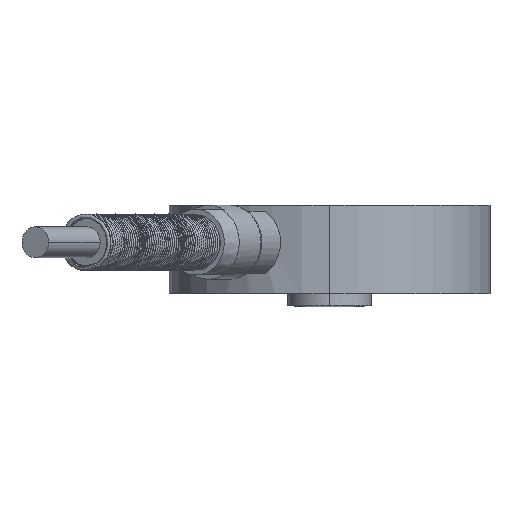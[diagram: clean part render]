
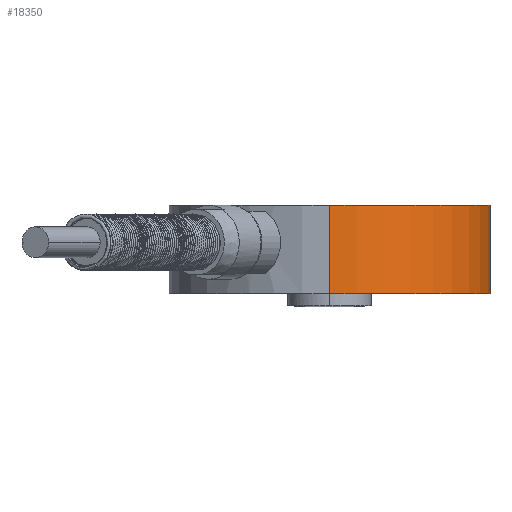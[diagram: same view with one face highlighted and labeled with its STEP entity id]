
A CAD part, left-side view. The second image highlights one B-rep face of the part: STEP entity #18350.
In plain terms, the highlighted cylindrical face has radius 15.6 mm (diameter 31.2 mm), a partial arc.
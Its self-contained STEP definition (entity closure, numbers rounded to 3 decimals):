
#1206 = EDGE_CURVE ( 'NONE', #18976, #30312, #41842, .T. ) ;
#5236 = CARTESIAN_POINT ( 'NONE',  ( 15.6, 0., 8.6 ) ) ;
#5985 = ORIENTED_EDGE ( 'NONE', *, *, #42233, .T. ) ;
#6189 = DIRECTION ( 'NONE',  ( 0., 0., 1. ) ) ;
#6446 = DIRECTION ( 'NONE',  ( 1., 0., 0. ) ) ;
#8075 = DIRECTION ( 'NONE',  ( 0., 0., -1. ) ) ;
#9190 = VECTOR ( 'NONE', #33330, 1000. ) ;
#10443 = EDGE_CURVE ( 'NONE', #18976, #50960, #14753, .T. ) ;
#11071 = AXIS2_PLACEMENT_3D ( 'NONE', #14754, #31162, #19183 ) ;
#14753 = LINE ( 'NONE', #46281, #33545 ) ;
#14754 = CARTESIAN_POINT ( 'NONE',  ( 0., 0., 0. ) ) ;
#16097 = VERTEX_POINT ( 'NONE', #5236 ) ;
#18147 = FACE_OUTER_BOUND ( 'NONE', #45635, .T. ) ;
#18350 = ADVANCED_FACE ( 'NONE', ( #18147 ), #49682, .T. ) ;
#18976 = VERTEX_POINT ( 'NONE', #21296 ) ;
#19183 = DIRECTION ( 'NONE',  ( 1., 0., 0. ) ) ;
#21296 = CARTESIAN_POINT ( 'NONE',  ( -15.6, 0., 0. ) ) ;
#23964 = DIRECTION ( 'NONE',  ( 1., 0., 0. ) ) ;
#28271 = AXIS2_PLACEMENT_3D ( 'NONE', #49435, #6189, #6446 ) ;
#30312 = VERTEX_POINT ( 'NONE', #31960 ) ;
#31162 = DIRECTION ( 'NONE',  ( 0., 0., 1. ) ) ;
#31960 = CARTESIAN_POINT ( 'NONE',  ( 15.6, 0., 0. ) ) ;
#33330 = DIRECTION ( 'NONE',  ( 0., 0., 1. ) ) ;
#33545 = VECTOR ( 'NONE', #38457, 1000. ) ;
#37481 = CIRCLE ( 'NONE', #41649, 15.6 ) ;
#38131 = EDGE_CURVE ( 'NONE', #16097, #50960, #37481, .T. ) ;
#38457 = DIRECTION ( 'NONE',  ( 0., 0., 1. ) ) ;
#38602 = CARTESIAN_POINT ( 'NONE',  ( -15.6, 0., 8.6 ) ) ;
#41157 = CARTESIAN_POINT ( 'NONE',  ( 15.6, 0., 0. ) ) ;
#41649 = AXIS2_PLACEMENT_3D ( 'NONE', #43769, #8075, #23964 ) ;
#41842 = CIRCLE ( 'NONE', #11071, 15.6 ) ;
#42233 = EDGE_CURVE ( 'NONE', #30312, #16097, #48718, .T. ) ;
#43769 = CARTESIAN_POINT ( 'NONE',  ( 0., 0., 8.6 ) ) ;
#44996 = ORIENTED_EDGE ( 'NONE', *, *, #38131, .T. ) ;
#45570 = ORIENTED_EDGE ( 'NONE', *, *, #1206, .T. ) ;
#45635 = EDGE_LOOP ( 'NONE', ( #47763, #45570, #5985, #44996 ) ) ;
#46281 = CARTESIAN_POINT ( 'NONE',  ( -15.6, 0., 0. ) ) ;
#47763 = ORIENTED_EDGE ( 'NONE', *, *, #10443, .F. ) ;
#48718 = LINE ( 'NONE', #41157, #9190 ) ;
#49435 = CARTESIAN_POINT ( 'NONE',  ( 0., 0., 0. ) ) ;
#49682 = CYLINDRICAL_SURFACE ( 'NONE', #28271, 15.6 ) ;
#50960 = VERTEX_POINT ( 'NONE', #38602 ) ;
